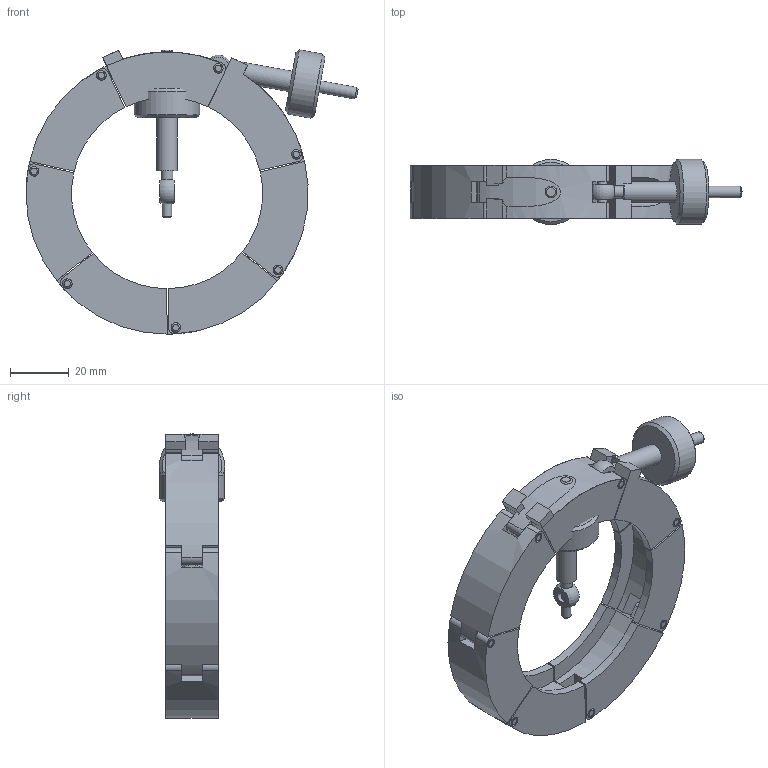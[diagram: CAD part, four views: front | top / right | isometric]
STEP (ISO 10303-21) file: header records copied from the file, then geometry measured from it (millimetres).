
FILE_DESCRIPTION( ( 'Unknown' ), '1' );
FILE_NAME( 'X:/Daten ( aktueller Bestand )/Projekte und Zeichnungen/Solid Edge/5 Spannringe/Kunststoff/Spannkette/1354.stp', 'Unknown', ( 'Unknown' ), ( 'Unknown' ), 'XStep 1.0', 'Unknown', ' ' );
FILE_SCHEMA( ( 'automotive_design' ) );
Length unit declared in the file: millimetre
Products named in the file (5): Assem1; 1354-1; 1354-2; 1351-3; 1351-2
Bounding box: 113.06 x 22.19 x 96.8 mm (x, y, z)
Volume: 75015 mm3; surface area: 37917.6 mm2
Topology: 19 solids, 19 shells, 299 faces, 751 edges, 496 vertices
Faces by surface type: plane 160, cylinder 115, cone 22, sphere 2
Full cylindrical faces by diameter (mm): 3.2 x8, 3.3 x25, 3.5 x2, 4 x4, 7 x2, 22.193 x2
Entity records: 2313 total; most frequent: CARTESIAN_POINT 414, DIRECTION 405, ORIENTED_EDGE 316, AXIS2_PLACEMENT_3D 160, EDGE_CURVE 158, VERTEX_POINT 115, EDGE_LOOP 105, LINE 85
